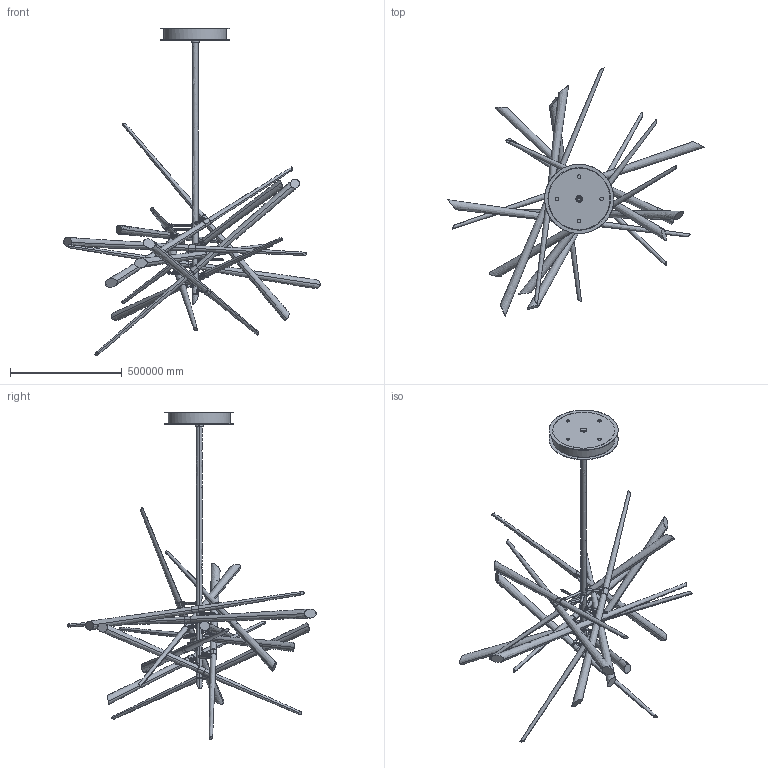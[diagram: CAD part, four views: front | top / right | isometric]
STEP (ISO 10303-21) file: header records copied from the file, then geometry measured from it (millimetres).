
FILE_DESCRIPTION(/* description */ (''),/* implementation_level */ '2;1');
FILE_NAME(/* name */ 'AndWhyNot_CE',/* time_stamp */ '2019-01-10T16:01:12+01:00',/* author */ (''),/* organization */ (''),/* preprocessor_version */ 'ST-DEVELOPER v15',/* originating_system */ '',/* authorisation */ '');
FILE_SCHEMA (('AUTOMOTIVE_DESIGN'));
Length unit declared in the file: metre
Products named in the file (1): Document
Bounding box: 1149343.06 x 1113364.48 x 1468073.45 mm (x, y, z)
Volume: 9081637638788232 mm3; surface area: 1876322458852.3 mm2
Topology: 94 solids, 94 shells, 1106 faces, 3001 edges, 2077 vertices
Faces by surface type: bspline 841, plane 265
Entity records: 49045 total; most frequent: CARTESIAN_POINT 31023, ORIENTED_EDGE 5918, EDGE_CURVE 2959, VERTEX_POINT 2077, B_SPLINE_CURVE_WITH_KNOTS 1432, EDGE_LOOP 1332, ADVANCED_FACE 1106, FACE_OUTER_BOUND 1106
